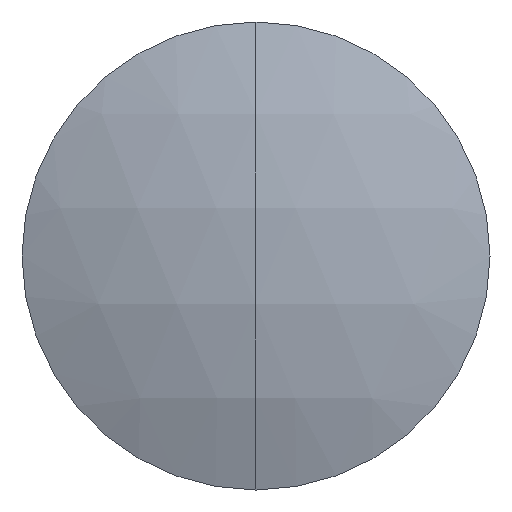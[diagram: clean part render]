
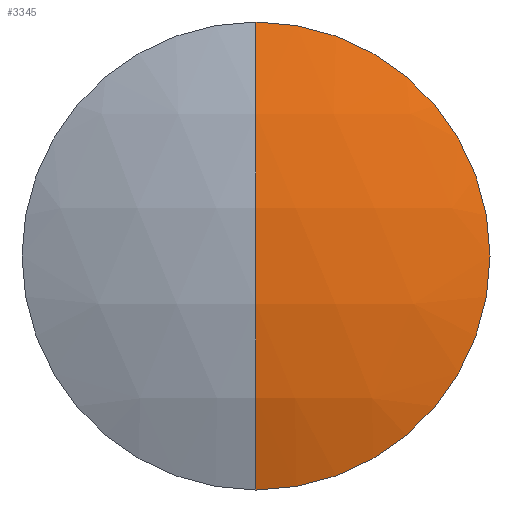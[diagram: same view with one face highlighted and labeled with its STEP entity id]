
A CAD part, left-side view. The second image highlights one B-rep face of the part: STEP entity #3345.
In plain terms, the highlighted spherical face has radius 49.609 mm.
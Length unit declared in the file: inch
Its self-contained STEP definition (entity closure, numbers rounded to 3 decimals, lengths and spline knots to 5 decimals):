
#3311=CARTESIAN_POINT('',(0.56606,0.,0.606));
#3312=DIRECTION('',(0.0,0.0,1.0));
#3313=DIRECTION('',(-1.0,0.0,0.0));
#3314=AXIS2_PLACEMENT_3D('',#3311,#3312,#3313);
#3315=SPHERICAL_SURFACE('',#3314,1.95313);
#3316=CARTESIAN_POINT('',(-1.26206,0.,-0.0815));
#3317=VERTEX_POINT('',#3316);
#3318=CARTESIAN_POINT('',(-1.26206,0.,1.2935));
#3319=VERTEX_POINT('',#3318);
#3320=CARTESIAN_POINT('',(0.56606,0.,0.606));
#3321=DIRECTION('',(0.0,1.0,0.0));
#3322=DIRECTION('',(0.0,0.0,-1.0));
#3323=AXIS2_PLACEMENT_3D('',#3320,#3321,#3322);
#3324=CIRCLE('',#3323,1.95313);
#3325=EDGE_CURVE('',#3317,#3319,#3324,.T.);
#3326=ORIENTED_EDGE('',*,*,#3325,.F.);
#3327=CARTESIAN_POINT('',(-1.26206,-0.6875,0.606));
#3328=VERTEX_POINT('',#3327);
#3329=CARTESIAN_POINT('',(-1.26206,0.,0.606));
#3330=DIRECTION('',(1.0,0.0,0.0));
#3331=DIRECTION('',(0.0,-1.0,0.0));
#3332=AXIS2_PLACEMENT_3D('',#3329,#3330,#3331);
#3333=CIRCLE('',#3332,0.6875);
#3334=EDGE_CURVE('',#3328,#3317,#3333,.T.);
#3335=ORIENTED_EDGE('',*,*,#3334,.F.);
#3336=CARTESIAN_POINT('',(-1.26206,0.,0.606));
#3337=DIRECTION('',(1.0,0.0,0.0));
#3338=DIRECTION('',(0.0,-1.0,0.0));
#3339=AXIS2_PLACEMENT_3D('',#3336,#3337,#3338);
#3340=CIRCLE('',#3339,0.6875);
#3341=EDGE_CURVE('',#3319,#3328,#3340,.T.);
#3342=ORIENTED_EDGE('',*,*,#3341,.F.);
#3343=EDGE_LOOP('',(#3326,#3335,#3342));
#3344=FACE_OUTER_BOUND('',#3343,.T.);
#3345=ADVANCED_FACE('',(#3344),#3315,.T.);
